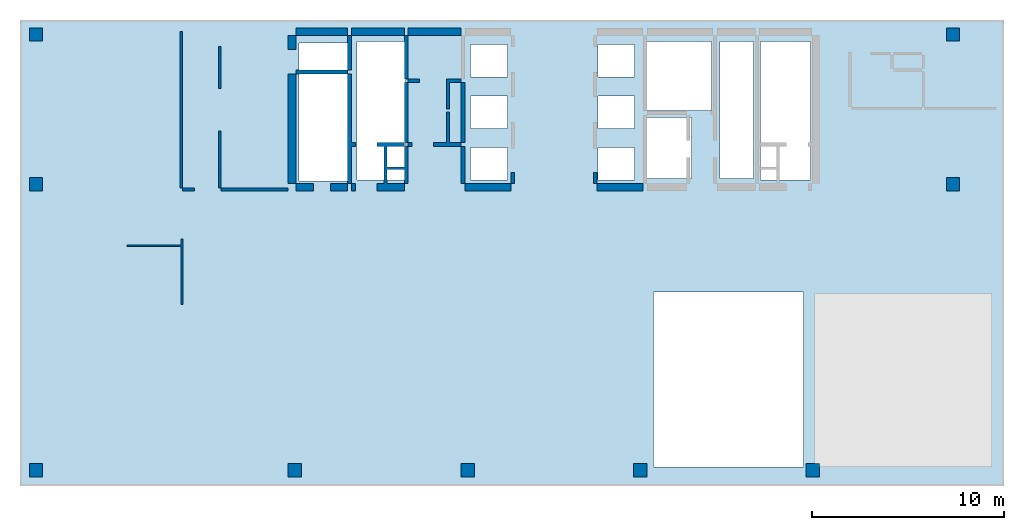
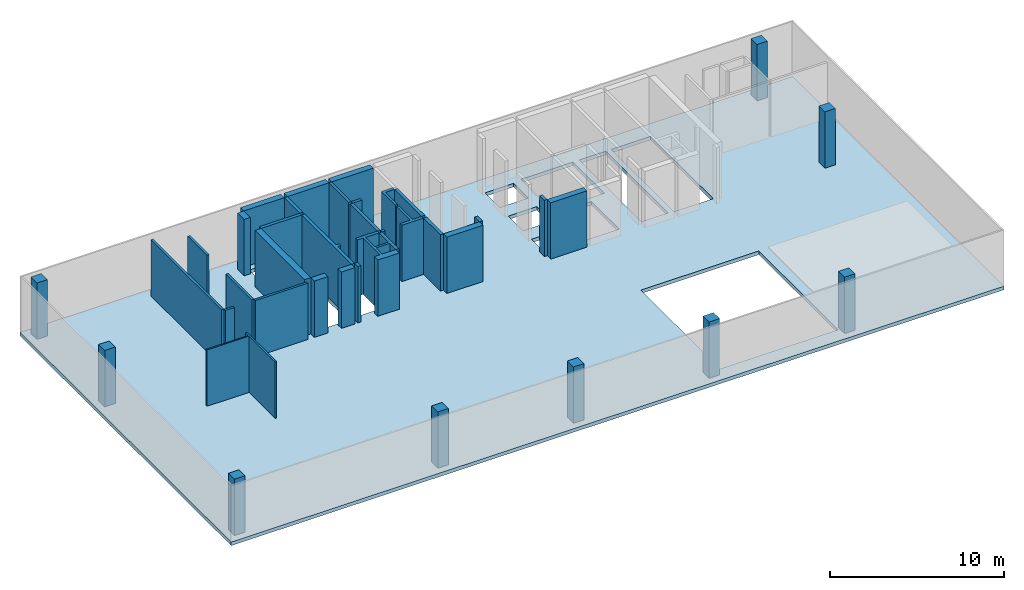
# One storey, part 1 of 4: 30 walls, 9 columns, 1 slab.
"""IFC4 building model written with IfcOpenShell, lengths in millimetres."""

from ifc_helpers import new_model, si_unit, frame, origin, place, context, project, spatial, triangles, element, save


model = new_model("IFC4")

# Units and contexts
model_context = context("Model", 3, precision=0.001, world=origin())
ifc_project = project(units=[si_unit("LENGTHUNIT", "METRE", prefix="MILLI"), si_unit("AREAUNIT", "SQUARE_METRE"), si_unit("VOLUMEUNIT", "CUBIC_METRE")], contexts=[model_context])

# Site, building, storey
site_placement = place(None, origin())
site = spatial("IfcSite", under=ifc_project, at=site_placement, Name="Site", CompositionType="ELEMENT")
building_placement = place(site_placement, origin())
building = spatial("IfcBuilding", under=site, at=building_placement, Name="INNOCEAN", CompositionType="ELEMENT")
storey_placement = place(building_placement, frame((0.0, 0.0, 80600.0)))
storey = spatial("IfcBuildingStorey", under=building, at=storey_placement, Name="F19", CompositionType="ELEMENT", Elevation=80600.0)

# Columns
column_1_placement = place(storey_placement, origin())
element("IfcColumn", 1, at=column_1_placement, inside=storey, Name="F19_Columns_F19_001", context=model_context, shape_type="Tessellation", body=[
    triangles([(40114.8, 2023.7, 0.0), (40114.8, 2023.7, 3950.0), (40114.8, 2722.3, 0.0), (40114.8, 2722.3, 3950.0), (40813.0, 2023.7, 3950.0), (40813.0, 2023.7, 0.0), (40813.0, 2722.3, 0.0), (40813.0, 2722.3, 3950.0)], [[1, 2, 3], [3, 2, 4], [5, 6, 7], [5, 7, 8], [6, 5, 1], [1, 5, 2], [8, 7, 3], [8, 3, 4], [3, 7, 1], [1, 7, 6], [8, 4, 2], [8, 2, 5]], closed=True),
])
column_2_placement = place(storey_placement, origin())
element("IfcColumn", 2, at=column_2_placement, inside=storey, Name="F19_Columns_F19_002", context=model_context, shape_type="Tessellation", body=[
    triangles([(47413.4, 24721.0, 0.0), (47413.4, 24721.0, 3950.0), (47413.4, 25419.5, 0.0), (47413.4, 25419.5, 3950.0), (48111.6, 24721.0, 3950.0), (48111.6, 24721.0, 0.0), (48111.6, 25419.5, 0.0), (48111.6, 25419.5, 3950.0)], [[1, 2, 3], [3, 2, 4], [5, 6, 7], [5, 7, 8], [6, 5, 1], [1, 5, 2], [8, 7, 3], [8, 3, 4], [1, 3, 6], [3, 7, 6], [4, 2, 5], [8, 4, 5]], closed=True),
])
column_3_placement = place(storey_placement, origin())
element("IfcColumn", 3, at=column_3_placement, inside=storey, Name="F19_Columns_F19_003", context=model_context, shape_type="Tessellation", body=[
    triangles([(47413.4, 16922.4, 0.0), (47413.4, 16922.4, 3950.0), (47413.4, 17620.9, 0.0), (47413.4, 17620.9, 3950.0), (48111.6, 16922.4, 3950.0), (48111.6, 16922.4, 0.0), (48111.6, 17620.9, 0.0), (48111.6, 17620.9, 3950.0)], [[1, 2, 3], [3, 2, 4], [5, 6, 7], [5, 7, 8], [6, 5, 1], [1, 5, 2], [8, 7, 3], [8, 3, 4], [1, 3, 6], [3, 7, 6], [4, 2, 5], [8, 4, 5]], closed=True),
])
column_4_placement = place(storey_placement, origin())
element("IfcColumn", 4, at=column_4_placement, inside=storey, Name="F19_Columns_F19_004", context=model_context, shape_type="Tessellation", body=[
    triangles([(13129.0, 2023.7, 0.0), (13129.0, 2023.7, 3950.0), (13129.0, 2722.3, 0.0), (13129.0, 2722.3, 3950.0), (13827.2, 2023.7, 3950.0), (13827.2, 2023.7, 0.0), (13827.2, 2722.3, 0.0), (13827.2, 2722.3, 3950.0)], [[1, 2, 3], [3, 2, 4], [5, 6, 7], [5, 7, 8], [6, 5, 1], [1, 5, 2], [8, 7, 3], [8, 3, 4], [3, 7, 1], [1, 7, 6], [8, 4, 2], [8, 2, 5]], closed=True),
])
column_5_placement = place(storey_placement, origin())
element("IfcColumn", 5, at=column_5_placement, inside=storey, Name="F19_Columns_F19_005", context=model_context, shape_type="Tessellation", body=[
    triangles([(-363.9, 2023.7, 0.0), (-363.9, 2023.7, 3950.0), (-363.9, 2722.3, 0.0), (-363.9, 2722.3, 3950.0), (334.3, 2023.7, 3950.0), (334.3, 2023.7, 0.0), (334.3, 2722.3, 0.0), (334.3, 2722.3, 3950.0)], [[1, 2, 3], [3, 2, 4], [5, 6, 7], [5, 7, 8], [6, 5, 1], [1, 5, 2], [8, 7, 3], [8, 3, 4], [3, 7, 1], [1, 7, 6], [8, 4, 2], [8, 2, 5]], closed=True),
])
column_6_placement = place(storey_placement, origin())
element("IfcColumn", 6, at=column_6_placement, inside=storey, Name="F19_Columns_F19_006", context=model_context, shape_type="Tessellation", body=[
    triangles([(-363.9, 24721.0, 0.0), (-363.9, 24721.0, 3950.0), (-363.9, 25419.5, 0.0), (-363.9, 25419.5, 3950.0), (334.3, 24721.0, 3950.0), (334.3, 24721.0, 0.0), (334.3, 25419.5, 0.0), (334.3, 25419.5, 3950.0)], [[1, 2, 3], [3, 2, 4], [5, 6, 7], [5, 7, 8], [6, 5, 1], [1, 5, 2], [8, 7, 3], [8, 3, 4], [3, 7, 1], [1, 7, 6], [8, 4, 2], [8, 2, 5]], closed=True),
])
column_7_placement = place(storey_placement, origin())
element("IfcColumn", 7, at=column_7_placement, inside=storey, Name="F19_Columns_F19_007", context=model_context, shape_type="Tessellation", body=[
    triangles([(31128.0, 2023.7, 0.0), (31128.0, 2023.7, 3950.0), (31128.0, 2722.3, 0.0), (31128.0, 2722.3, 3950.0), (31826.2, 2023.7, 3950.0), (31826.2, 2023.7, 0.0), (31826.2, 2722.3, 0.0), (31826.2, 2722.3, 3950.0)], [[1, 2, 3], [3, 2, 4], [5, 6, 7], [5, 7, 8], [6, 5, 1], [1, 5, 2], [8, 7, 3], [8, 3, 4], [3, 7, 1], [1, 7, 6], [8, 4, 2], [8, 2, 5]], closed=True),
])
column_8_placement = place(storey_placement, origin())
element("IfcColumn", 8, at=column_8_placement, inside=storey, Name="F19_Columns_F19_008", context=model_context, shape_type="Tessellation", body=[
    triangles([(22128.5, 2023.7, 0.0), (22128.5, 2023.7, 3950.0), (22128.5, 2722.3, 0.0), (22128.5, 2722.3, 3950.0), (22826.7, 2023.7, 3950.0), (22826.7, 2023.7, 0.0), (22826.7, 2722.3, 0.0), (22826.7, 2722.3, 3950.0)], [[1, 2, 3], [3, 2, 4], [5, 6, 7], [5, 7, 8], [6, 5, 1], [1, 5, 2], [8, 7, 3], [8, 3, 4], [3, 7, 1], [1, 7, 6], [8, 4, 2], [8, 2, 5]], closed=True),
])
column_9_placement = place(storey_placement, origin())
element("IfcColumn", 9, at=column_9_placement, inside=storey, Name="F19_Columns_F19_009", context=model_context, shape_type="Tessellation", body=[
    triangles([(-363.9, 16922.4, 0.0), (-363.9, 16922.4, 3950.0), (-363.9, 17620.9, 0.0), (-363.9, 17620.9, 3950.0), (334.3, 16922.4, 3950.0), (334.3, 16922.4, 0.0), (334.3, 17620.9, 0.0), (334.3, 17620.9, 3950.0)], [[1, 2, 3], [3, 2, 4], [5, 6, 7], [5, 7, 8], [6, 5, 1], [1, 5, 2], [8, 7, 3], [8, 3, 4], [3, 7, 1], [1, 7, 6], [8, 4, 2], [8, 2, 5]], closed=True),
])

# Slab
slab_placement = place(storey_placement, origin())
element("IfcSlab", 10, at=slab_placement, inside=storey, Name="F19_Slab_F19_001", context=model_context, shape_type="Tessellation", body=[
    triangles([(-846.215139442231, 25825.974025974, 0.0), (50420.3187250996, 25825.974025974, -250.0), (-846.215139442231, 25825.974025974, -250.0), (50420.3187250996, 25825.974025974, 0.0), (-846.215139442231, 1552.38095238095, 0.0), (-846.215139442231, 1552.38095238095, -250.0), (50420.3187250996, 1552.38095238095, 0.0), (50420.3187250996, 1552.38095238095, -250.0), (39983.6653386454, 11642.8571428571, 0.0), (32156.1752988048, 11642.8571428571, 0.0), (32156.1752988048, 11642.8571428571, -250.0), (39983.6653386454, 11642.8571428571, -250.0), (39983.6653386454, 2540.25974025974, 0.0), (39983.6653386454, 2540.25974025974, -250.0), (32156.1752988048, 2540.25974025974, 0.0), (32156.1752988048, 2540.25974025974, -250.0), (31168.9243027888, 19193.0735930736, 0.0), (29264.9402390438, 19193.0735930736, 0.0), (29264.9402390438, 19193.0735930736, -250.0), (31168.9243027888, 19193.0735930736, -250.0), (29264.9402390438, 17499.5670995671, 0.0), (29264.9402390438, 17499.5670995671, -250.0), (31168.9243027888, 17499.5670995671, 0.0), (31168.9243027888, 17499.5670995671, -250.0), (40336.2549800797, 24696.9696969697, -250.0), (37727.0916334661, 24696.9696969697, 0.0), (37727.0916334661, 24696.9696969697, -250.0), (40336.2549800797, 24696.9696969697, 0.0), (37727.0916334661, 17499.5670995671, 0.0), (37727.0916334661, 17499.5670995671, -250.0), (40336.2549800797, 17499.5670995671, 0.0), (40336.2549800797, 17499.5670995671, -250.0), (37374.5019920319, 24696.9696969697, 0.0), (35611.5537848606, 24696.9696969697, 0.0), (35611.5537848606, 24696.9696969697, -250.0), (37374.5019920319, 24696.9696969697, -250.0), (35611.5537848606, 17570.1298701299, 0.0), (35611.5537848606, 17570.1298701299, -250.0), (37374.5019920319, 17570.1298701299, 0.0), (37374.5019920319, 17570.1298701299, -250.0), (34130.6772908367, 20745.4545454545, -250.0), (31733.0677290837, 20745.4545454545, 0.0), (31733.0677290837, 20745.4545454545, -250.0), (34130.6772908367, 20745.4545454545, 0.0), (31733.0677290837, 17570.1298701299, 0.0), (31733.0677290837, 17570.1298701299, -250.0), (34130.6772908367, 17570.1298701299, 0.0), (34130.6772908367, 17570.1298701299, -250.0), (31168.9243027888, 21874.4588744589, 0.0), (29264.9402390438, 21874.4588744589, 0.0), (29264.9402390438, 21874.4588744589, -250.0), (31168.9243027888, 21874.4588744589, -250.0), (29264.9402390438, 20180.9523809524, 0.0), (29264.9402390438, 20180.9523809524, -250.0), (31168.9243027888, 20180.9523809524, 0.0), (31168.9243027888, 20180.9523809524, -250.0), (35188.4462151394, 24696.9696969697, 0.0), (31733.0677290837, 24696.9696969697, 0.0), (31733.0677290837, 24696.9696969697, -250.0), (35188.4462151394, 24696.9696969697, -250.0), (31733.0677290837, 21098.2683982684, 0.0), (31733.0677290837, 21098.2683982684, -250.0), (35188.4462151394, 21098.2683982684, 0.0), (35188.4462151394, 21098.2683982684, -250.0), (31168.9243027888, 24555.8441558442, 0.0), (29264.9402390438, 24555.8441558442, 0.0), (29264.9402390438, 24555.8441558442, -250.0), (31168.9243027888, 24555.8441558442, -250.0), (29264.9402390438, 22862.3376623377, 0.0), (29264.9402390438, 22862.3376623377, -250.0), (31168.9243027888, 22862.3376623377, 0.0), (31168.9243027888, 22862.3376623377, -250.0), (24540.2390438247, 19193.0735930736, -250.0), (22636.2549800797, 19193.0735930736, 0.0), (22636.2549800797, 19193.0735930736, -250.0), (24540.2390438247, 19193.0735930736, 0.0), (22636.2549800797, 17499.5670995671, 0.0), (22636.2549800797, 17499.5670995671, -250.0), (24540.2390438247, 17499.5670995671, 0.0), (24540.2390438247, 17499.5670995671, -250.0), (24540.2390438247, 21874.4588744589, -250.0), (22636.2549800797, 21874.4588744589, 0.0), (22636.2549800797, 21874.4588744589, -250.0), (24540.2390438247, 21874.4588744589, 0.0), (22636.2549800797, 20180.9523809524, 0.0), (22636.2549800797, 20180.9523809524, -250.0), (24540.2390438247, 20180.9523809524, 0.0), (24540.2390438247, 20180.9523809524, -250.0), (24540.2390438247, 24555.8441558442, -250.0), (22636.2549800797, 24555.8441558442, 0.0), (22636.2549800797, 24555.8441558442, -250.0), (24540.2390438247, 24555.8441558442, 0.0), (22636.2549800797, 22862.3376623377, 0.0), (22636.2549800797, 22862.3376623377, -250.0), (24540.2390438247, 22862.3376623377, 0.0), (24540.2390438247, 22862.3376623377, -250.0), (19251.3944223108, 24696.9696969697, 0.0), (16712.7490039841, 24696.9696969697, 0.0), (16712.7490039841, 24696.9696969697, -250.0), (19251.3944223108, 24696.9696969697, -250.0), (16712.7490039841, 17499.5670995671, 0.0), (16712.7490039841, 17499.5670995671, -250.0), (19251.3944223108, 17499.5670995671, 0.0), (19251.3944223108, 17499.5670995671, -250.0), (16219.1235059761, 24626.4069264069, 0.0), (13680.4780876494, 24626.4069264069, 0.0), (13680.4780876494, 24626.4069264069, -250.0), (16219.1235059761, 24626.4069264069, -250.0), (13680.4780876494, 17429.0043290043, 0.0), (13680.4780876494, 17429.0043290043, -250.0), (16219.1235059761, 17429.0043290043, 0.0), (16219.1235059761, 17429.0043290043, -250.0)], [[1, 2, 3], [1, 4, 2], [5, 1, 6], [6, 1, 3], [4, 7, 2], [2, 7, 8], [7, 6, 8], [7, 5, 6], [9, 10, 11], [9, 11, 12], [13, 9, 12], [13, 12, 14], [15, 13, 14], [15, 14, 16], [10, 15, 16], [10, 16, 11], [17, 18, 19], [17, 19, 20], [18, 21, 22], [18, 22, 19], [23, 17, 20], [23, 20, 24], [21, 23, 24], [21, 24, 22], [25, 26, 27], [28, 26, 25], [26, 29, 30], [26, 30, 27], [31, 28, 25], [31, 25, 32], [30, 31, 32], [29, 31, 30], [33, 34, 35], [33, 35, 36], [34, 37, 38], [34, 38, 35], [39, 33, 36], [39, 36, 40], [37, 39, 40], [37, 40, 38], [41, 42, 43], [44, 42, 41], [42, 45, 46], [42, 46, 43], [47, 44, 41], [47, 41, 48], [46, 47, 48], [45, 47, 46], [49, 50, 51], [49, 51, 52], [50, 53, 54], [50, 54, 51], [55, 49, 52], [55, 52, 56], [53, 55, 56], [53, 56, 54], [57, 58, 59], [57, 59, 60], [58, 61, 62], [58, 62, 59], [63, 57, 60], [63, 60, 64], [61, 63, 64], [61, 64, 62], [65, 66, 67], [65, 67, 68], [66, 69, 70], [66, 70, 67], [71, 65, 68], [71, 68, 72], [69, 71, 72], [69, 72, 70], [73, 74, 75], [76, 74, 73], [74, 77, 78], [74, 78, 75], [79, 76, 73], [79, 73, 80], [78, 79, 80], [77, 79, 78], [81, 82, 83], [84, 82, 81], [82, 85, 86], [82, 86, 83], [87, 84, 81], [87, 81, 88], [86, 87, 88], [85, 87, 86], [89, 90, 91], [92, 90, 89], [90, 93, 94], [90, 94, 91], [95, 92, 89], [95, 89, 96], [94, 95, 96], [93, 95, 94], [97, 98, 99], [97, 99, 100], [98, 101, 102], [98, 102, 99], [103, 97, 100], [103, 100, 104], [101, 103, 104], [101, 104, 102], [105, 106, 107], [105, 107, 108], [106, 109, 110], [106, 110, 107], [111, 105, 108], [111, 108, 112], [109, 111, 112], [109, 112, 110], [13, 15, 7], [7, 9, 13], [7, 4, 9], [4, 31, 9], [31, 29, 9], [29, 39, 9], [9, 37, 10], [39, 37, 9], [37, 47, 10], [4, 28, 31], [47, 45, 10], [45, 23, 10], [37, 44, 47], [63, 44, 37], [45, 17, 23], [23, 21, 10], [17, 42, 55], [42, 61, 55], [44, 61, 42], [34, 57, 63], [55, 18, 17], [61, 49, 55], [55, 53, 18], [61, 71, 49], [21, 79, 10], [58, 65, 71], [71, 69, 49], [49, 69, 50], [21, 76, 79], [18, 76, 21], [53, 76, 18], [10, 77, 15], [79, 77, 10], [58, 66, 65], [50, 87, 53], [53, 87, 76], [50, 84, 87], [76, 85, 74], [87, 85, 76], [77, 103, 15], [85, 103, 74], [74, 103, 77], [69, 95, 50], [50, 95, 84], [85, 82, 103], [95, 82, 84], [66, 92, 69], [69, 92, 95], [95, 93, 82], [103, 111, 15], [101, 111, 103], [111, 5, 15], [111, 109, 5], [90, 97, 93], [93, 97, 82], [82, 97, 103], [101, 105, 111], [98, 105, 101], [98, 106, 105], [106, 1, 109], [109, 1, 5], [4, 1, 28], [28, 1, 26], [26, 1, 33], [33, 1, 34], [34, 1, 57], [57, 1, 58], [58, 1, 66], [66, 1, 92], [92, 1, 90], [90, 1, 97], [97, 1, 98], [98, 1, 106], [5, 7, 15], [37, 34, 63], [33, 39, 26], [26, 39, 29], [45, 42, 17], [61, 58, 71], [63, 61, 44], [16, 14, 8], [12, 8, 14], [2, 8, 12], [32, 2, 12], [30, 32, 12], [40, 30, 12], [38, 12, 11], [38, 40, 12], [48, 38, 11], [25, 2, 32], [46, 48, 11], [24, 46, 11], [41, 38, 48], [41, 64, 38], [20, 46, 24], [22, 24, 11], [43, 20, 56], [62, 43, 56], [62, 41, 43], [60, 35, 64], [19, 56, 20], [52, 62, 56], [54, 56, 19], [72, 62, 52], [80, 22, 11], [68, 59, 72], [70, 72, 52], [70, 52, 51], [73, 22, 80], [73, 19, 22], [73, 54, 19], [78, 11, 16], [78, 80, 11], [67, 59, 68], [88, 51, 54], [88, 54, 73], [81, 51, 88], [86, 73, 75], [86, 88, 73], [104, 78, 16], [104, 86, 75], [104, 75, 78], [96, 70, 51], [96, 51, 81], [83, 86, 104], [83, 96, 81], [89, 67, 70], [89, 70, 96], [94, 96, 83], [112, 104, 16], [112, 102, 104], [6, 112, 16], [110, 112, 6], [100, 91, 94], [100, 94, 83], [100, 83, 104], [108, 102, 112], [108, 99, 102], [107, 99, 108], [3, 107, 110], [3, 110, 6], [3, 2, 25], [3, 25, 27], [3, 27, 36], [3, 36, 35], [3, 35, 60], [3, 60, 59], [3, 59, 67], [3, 67, 89], [3, 89, 91], [3, 91, 100], [3, 100, 99], [3, 99, 107], [8, 6, 16], [35, 38, 64], [40, 36, 27], [40, 27, 30], [43, 46, 20], [59, 62, 72], [62, 64, 41]], closed=True),
])

# Walls
wall_1_placement = place(storey_placement, origin())
element("IfcWall", 11, at=wall_1_placement, inside=storey, Name="F19_Walls_F19_001", context=model_context, shape_type="Tessellation", body=[
    triangles([(7530.0, 11015.0, 0.0), (7635.0, 11015.0, 0.0), (7635.0, 11015.0, 3950.0), (7530.0, 11015.0, 3950.0), (7530.0, 13570.0, 0.0), (7530.0, 13570.0, 3950.0), (7530.0, 14025.0, 0.0), (7530.0, 14025.0, 3950.0), (7530.0, 14026.5, 0.0), (7530.0, 14026.5, 3950.0), (4738.8, 14026.5, 3950.0), (4738.8, 14026.5, 0.0), (4738.8, 14115.4, 0.0), (4738.8, 14115.4, 3950.0), (7530.0, 14115.4, 3950.0), (7530.0, 14115.4, 0.0), (7530.0, 14420.0, 0.0), (7530.0, 14420.0, 3950.0), (7531.3, 14420.0, 0.0), (7531.3, 14420.0, 3950.0), (7531.3, 14420.2, 0.0), (7531.3, 14420.2, 3950.0), (7632.9, 14420.2, 0.0), (7632.9, 14420.2, 3950.0), (7632.9, 14420.0, 0.0), (7632.9, 14420.0, 3950.0), (7635.0, 14420.0, 0.0), (7635.0, 14420.0, 3950.0)], [[1, 2, 3], [1, 3, 4], [5, 1, 4], [5, 4, 6], [7, 5, 6], [7, 6, 8], [9, 7, 8], [9, 8, 10], [9, 10, 11], [12, 9, 11], [13, 12, 11], [13, 11, 14], [13, 14, 15], [16, 13, 15], [17, 16, 15], [17, 15, 18], [19, 17, 18], [19, 18, 20], [21, 19, 20], [21, 20, 22], [23, 21, 22], [23, 22, 24], [25, 23, 24], [25, 24, 26], [27, 25, 26], [27, 26, 28], [27, 28, 3], [2, 27, 3], [5, 2, 1], [27, 5, 7], [27, 7, 9], [27, 9, 16], [25, 27, 16], [19, 23, 25], [19, 25, 16], [21, 23, 19], [17, 19, 16], [13, 9, 12], [13, 16, 9], [27, 2, 5], [3, 6, 4], [6, 28, 8], [8, 28, 10], [10, 28, 15], [28, 26, 15], [24, 20, 26], [26, 20, 15], [24, 22, 20], [20, 18, 15], [10, 14, 11], [15, 14, 10], [3, 28, 6]], closed=True),
])
wall_2_placement = place(storey_placement, origin())
element("IfcWall", 12, at=wall_2_placement, inside=storey, Name="F19_Walls_F19_002", context=model_context, shape_type="Tessellation", body=[
    triangles([(8242.1, 16922.4, 0.0), (8242.1, 17074.8, 0.0), (8242.1, 17074.8, 3950.0), (8242.1, 16922.4, 3950.0), (7632.9, 16922.4, 0.0), (7632.9, 16922.4, 3950.0), (7632.9, 17074.8, 0.0), (7632.9, 17074.8, 3950.0)], [[1, 2, 3], [1, 3, 4], [5, 1, 4], [5, 4, 6], [7, 5, 6], [7, 6, 8], [2, 7, 8], [2, 8, 3], [7, 2, 1], [7, 1, 5], [3, 8, 4], [4, 8, 6]], closed=True),
])
wall_3_placement = place(storey_placement, origin())
element("IfcWall", 13, at=wall_3_placement, inside=storey, Name="F19_Walls_F19_003", context=model_context, shape_type="Tessellation", body=[
    triangles([(13129.0, 16922.4, 0.0), (13129.0, 17074.8, 0.0), (13129.0, 17074.8, 3950.0), (13129.0, 16922.4, 3950.0), (9638.4, 16922.4, 3950.0), (9638.4, 16922.4, 0.0), (9638.4, 17074.8, 0.0), (9638.4, 17074.8, 3950.0)], [[1, 2, 3], [1, 3, 4], [1, 4, 5], [6, 1, 5], [7, 6, 5], [7, 5, 8], [7, 8, 3], [2, 7, 3], [7, 2, 1], [7, 1, 6], [3, 8, 4], [4, 8, 5]], closed=True),
])
wall_4_placement = place(storey_placement, origin())
element("IfcWall", 14, at=wall_4_placement, inside=storey, Name="F19_Walls_F19_004", context=model_context, shape_type="Tessellation", body=[
    triangles([(14436.4, 17316.1, 0.0), (13535.2, 17316.1, 0.0), (13535.2, 17316.1, 3950.0), (14436.4, 17316.1, 3950.0), (14436.4, 16922.4, 3950.0), (14436.4, 16922.4, 0.0), (13535.2, 16922.4, 0.0), (13535.2, 16922.4, 3950.0)], [[1, 2, 3], [1, 3, 4], [1, 4, 5], [6, 1, 5], [7, 6, 5], [7, 5, 8], [7, 8, 3], [2, 7, 3], [2, 1, 6], [2, 6, 7], [4, 3, 5], [5, 3, 8]], closed=True),
])
wall_5_placement = place(storey_placement, origin())
element("IfcWall", 15, at=wall_5_placement, inside=storey, Name="F19_Walls_F19_005", context=model_context, shape_type="Tessellation", body=[
    triangles([(16226.2, 17316.1, 0.0), (16226.2, 17316.1, 3950.0), (16226.2, 16922.4, 3950.0), (16226.2, 16922.4, 0.0), (15337.6, 16922.4, 0.0), (15337.6, 16922.4, 3950.0), (15337.6, 17316.1, 3950.0), (15337.6, 17316.1, 0.0)], [[1, 2, 3], [4, 1, 3], [5, 4, 3], [5, 3, 6], [5, 6, 7], [8, 5, 7], [1, 8, 7], [1, 7, 2], [8, 1, 4], [8, 4, 5], [2, 7, 3], [3, 7, 6]], closed=True),
])
wall_6_placement = place(storey_placement, origin())
element("IfcWall", 16, at=wall_6_placement, inside=storey, Name="F19_Walls_F19_006", context=model_context, shape_type="Tessellation", body=[
    triangles([(16632.4, 17316.1, 0.0), (16632.4, 17316.1, 3950.0), (16632.4, 16922.4, 3950.0), (16632.4, 16922.4, 0.0), (16429.3, 16922.4, 3950.0), (16429.3, 16922.4, 0.0), (16429.3, 17316.1, 3950.0), (16429.3, 17316.1, 0.0)], [[1, 2, 3], [4, 1, 3], [4, 3, 5], [6, 4, 5], [6, 5, 7], [8, 6, 7], [8, 7, 2], [1, 8, 2], [8, 1, 4], [8, 4, 6], [2, 7, 3], [3, 7, 5]], closed=True),
])
wall_7_placement = place(storey_placement, origin())
element("IfcWall", 17, at=wall_7_placement, inside=storey, Name="F19_Walls_F19_007", context=model_context, shape_type="Tessellation", body=[
    triangles([(18130.0, 19245.0, 0.0), (18130.0, 17316.1, 0.0), (18130.0, 17316.1, 3950.0), (18130.0, 19245.0, 3950.0), (17749.4, 17316.1, 0.0), (17749.4, 17316.1, 3950.0), (17749.4, 16922.4, 0.0), (17749.4, 16922.4, 3950.0), (19183.7, 16922.4, 0.0), (19183.7, 16922.4, 3950.0), (19183.7, 17316.1, 0.0), (19183.7, 17316.1, 3950.0), (19374.1, 17316.1, 0.0), (19374.1, 17316.1, 3950.0), (19374.1, 19246.7, 0.0), (19374.1, 19246.7, 3950.0), (19183.7, 19246.7, 0.0), (19183.7, 19246.7, 3950.0), (19183.7, 19449.9, 0.0), (19183.7, 19449.9, 3950.0), (17749.4, 19449.9, 0.0), (17749.4, 19449.9, 3950.0), (17749.4, 19246.7, 0.0), (17749.4, 19246.7, 3950.0), (18130.2, 19246.7, 0.0), (18130.2, 19246.7, 3950.0), (18130.2, 19245.0, 0.0), (18130.2, 19245.0, 3950.0), (18282.5, 17316.1, 0.0), (18282.5, 17316.1, 3950.0), (18282.5, 18025.0, 0.0), (18282.5, 18025.0, 3950.0), (19183.7, 18025.0, 0.0), (19183.7, 18025.0, 3950.0), (19183.7, 18167.1, 0.0), (19183.7, 18167.1, 3950.0), (18282.5, 18167.1, 0.0), (18282.5, 18167.1, 3950.0), (18282.5, 19246.7, 0.0), (18282.5, 19246.7, 3950.0)], [[1, 2, 3], [1, 3, 4], [2, 5, 6], [2, 6, 3], [7, 8, 6], [5, 7, 6], [7, 9, 10], [7, 10, 8], [11, 12, 10], [9, 11, 10], [11, 13, 14], [11, 14, 12], [13, 15, 16], [13, 16, 14], [15, 17, 18], [15, 18, 16], [17, 19, 20], [17, 20, 18], [19, 21, 22], [19, 22, 20], [21, 23, 24], [21, 24, 22], [25, 26, 24], [23, 25, 24], [25, 27, 28], [25, 28, 26], [27, 1, 4], [27, 4, 28], [11, 29, 30], [11, 30, 12], [31, 32, 30], [29, 31, 30], [31, 33, 34], [31, 34, 32], [11, 12, 34], [33, 11, 34], [17, 35, 36], [17, 36, 18], [35, 37, 38], [35, 38, 36], [37, 39, 40], [37, 40, 38], [39, 17, 18], [39, 18, 40], [33, 13, 11], [35, 13, 33], [29, 11, 9], [7, 29, 9], [2, 29, 7], [5, 2, 7], [31, 29, 2], [15, 13, 35], [37, 33, 31], [37, 35, 33], [17, 15, 35], [39, 19, 17], [27, 39, 37], [1, 27, 37], [25, 39, 27], [21, 25, 23], [21, 19, 39], [21, 39, 25], [2, 1, 37], [2, 37, 31], [14, 34, 12], [14, 36, 34], [12, 30, 10], [30, 8, 10], [30, 3, 8], [3, 6, 8], [30, 32, 3], [14, 16, 36], [34, 38, 32], [36, 38, 34], [16, 18, 36], [20, 40, 18], [40, 28, 38], [28, 4, 38], [40, 26, 28], [26, 22, 24], [20, 22, 40], [40, 22, 26], [4, 3, 38], [38, 3, 32]], closed=True),
])
wall_8_placement = place(storey_placement, origin())
element("IfcWall", 18, at=wall_8_placement, inside=storey, Name="F19_Walls_F19_008", context=model_context, shape_type="Tessellation", body=[
    triangles([(16226.2, 23019.0, 0.0), (16226.2, 19449.9, 0.0), (16226.2, 19449.9, 3950.0), (16226.2, 23019.0, 3950.0), (16429.3, 23019.0, 0.0), (16429.3, 23019.0, 3950.0), (16429.3, 19449.9, 0.0), (16429.3, 19449.9, 3950.0), (16632.4, 19449.9, 3950.0), (16632.4, 19449.9, 0.0), (16632.4, 19246.7, 0.0), (16632.4, 19246.7, 3950.0), (16429.3, 19246.7, 3950.0), (16429.3, 19246.7, 0.0), (16429.3, 17316.1, 0.0), (16429.3, 17316.1, 3950.0), (16226.2, 17316.1, 0.0), (16226.2, 17316.1, 3950.0), (16226.2, 19246.7, 0.0), (16226.2, 19246.7, 3950.0)], [[1, 2, 3], [1, 3, 4], [5, 1, 4], [5, 4, 6], [7, 5, 6], [7, 6, 8], [7, 8, 9], [10, 7, 9], [11, 10, 9], [11, 9, 12], [11, 12, 13], [14, 11, 13], [15, 14, 13], [15, 13, 16], [17, 15, 16], [17, 16, 18], [19, 17, 18], [19, 18, 20], [2, 19, 20], [2, 20, 3], [19, 14, 15], [19, 15, 17], [7, 10, 11], [7, 11, 14], [2, 7, 14], [2, 14, 19], [5, 7, 2], [1, 5, 2], [13, 20, 16], [16, 20, 18], [9, 8, 12], [12, 8, 13], [8, 3, 13], [13, 3, 20], [8, 6, 3], [6, 4, 3]], closed=True),
])
wall_9_placement = place(storey_placement, origin())
element("IfcWall", 19, at=wall_9_placement, inside=storey, Name="F19_Walls_F19_009", context=model_context, shape_type="Tessellation", body=[
    triangles([(9638.4, 20046.9, 0.0), (9486.1, 20046.9, 0.0), (9486.1, 20046.9, 3950.0), (9638.4, 20046.9, 3950.0), (9638.4, 17074.8, 0.0), (9638.4, 17074.8, 3950.0), (9486.1, 17074.8, 0.0), (9486.1, 17074.8, 3950.0)], [[1, 2, 3], [1, 3, 4], [5, 1, 4], [5, 4, 6], [7, 5, 6], [7, 6, 8], [2, 7, 8], [2, 8, 3], [2, 1, 5], [2, 5, 7], [4, 3, 6], [6, 3, 8]], closed=True),
])
wall_10_placement = place(storey_placement, origin())
element("IfcWall", 20, at=wall_10_placement, inside=storey, Name="F19_Walls_F19_010", context=model_context, shape_type="Tessellation", body=[
    triangles([(13535.2, 17316.1, 0.0), (13535.2, 23019.0, 0.0), (13535.2, 23019.0, 3950.0), (13535.2, 17316.1, 3950.0), (13129.0, 17316.1, 3950.0), (13129.0, 17316.1, 0.0), (13129.0, 23019.0, 0.0), (13129.0, 23019.0, 3950.0)], [[1, 2, 3], [1, 3, 4], [1, 4, 5], [6, 1, 5], [7, 6, 5], [7, 5, 8], [7, 8, 3], [2, 7, 3], [7, 2, 1], [7, 1, 6], [3, 8, 4], [4, 8, 5]], closed=True),
])
wall_11_placement = place(storey_placement, origin())
element("IfcWall", 21, at=wall_11_placement, inside=storey, Name="F19_Walls_F19_011", context=model_context, shape_type="Tessellation", body=[
    triangles([(7632.9, 17074.8, 0.0), (7632.9, 25216.3, 0.0), (7632.9, 25216.3, 3950.0), (7632.9, 17074.8, 3950.0), (7480.5, 17074.8, 0.0), (7480.5, 17074.8, 3950.0), (7480.5, 25216.3, 0.0), (7480.5, 25216.3, 3950.0)], [[1, 2, 3], [1, 3, 4], [5, 1, 4], [5, 4, 6], [7, 5, 6], [7, 6, 8], [2, 7, 8], [2, 8, 3], [7, 2, 1], [7, 1, 5], [3, 8, 4], [4, 8, 6]], closed=True),
])
wall_12_placement = place(storey_placement, origin())
element("IfcWall", 22, at=wall_12_placement, inside=storey, Name="F19_Walls_F19_012", context=model_context, shape_type="Tessellation", body=[
    triangles([(16226.2, 23019.0, 0.0), (16226.2, 23222.2, 0.0), (16226.2, 23222.2, 3950.0), (16226.2, 23019.0, 3950.0), (13535.2, 23019.0, 0.0), (13535.2, 23019.0, 3950.0), (13535.2, 23222.2, 0.0), (13535.2, 23222.2, 3950.0)], [[1, 2, 3], [1, 3, 4], [5, 1, 4], [5, 4, 6], [7, 5, 6], [7, 6, 8], [2, 7, 8], [2, 8, 3], [7, 2, 1], [7, 1, 5], [3, 8, 4], [4, 8, 6]], closed=True),
])
wall_13_placement = place(storey_placement, origin())
element("IfcWall", 23, at=wall_13_placement, inside=storey, Name="F19_Walls_F19_013", context=model_context, shape_type="Tessellation", body=[
    triangles([(9638.4, 22244.2, 0.0), (9638.4, 24454.2, 0.0), (9638.4, 24454.2, 3950.0), (9638.4, 22244.2, 3950.0), (9486.1, 22244.2, 0.0), (9486.1, 22244.2, 3950.0), (9486.1, 24454.2, 0.0), (9486.1, 24454.2, 3950.0)], [[1, 2, 3], [1, 3, 4], [5, 1, 4], [5, 4, 6], [7, 5, 6], [7, 6, 8], [2, 7, 8], [2, 8, 3], [7, 2, 1], [7, 1, 5], [3, 8, 4], [4, 8, 6]], closed=True),
])
wall_14_placement = place(storey_placement, origin())
element("IfcWall", 24, at=wall_14_placement, inside=storey, Name="F19_Walls_F19_014", context=model_context, shape_type="Tessellation", body=[
    triangles([(16226.2, 23222.2, 0.0), (16429.3, 23222.2, 0.0), (16429.3, 23222.2, 3950.0), (16226.2, 23222.2, 3950.0), (16226.2, 25025.8, 0.0), (16226.2, 25025.8, 3950.0), (16429.3, 25025.8, 0.0), (16429.3, 25025.8, 3950.0)], [[1, 2, 3], [1, 3, 4], [5, 1, 4], [5, 4, 6], [7, 5, 6], [7, 6, 8], [2, 7, 8], [2, 8, 3], [5, 2, 1], [5, 7, 2], [3, 6, 4], [8, 6, 3]], closed=True),
])
wall_15_placement = place(storey_placement, origin())
element("IfcWall", 25, at=wall_15_placement, inside=storey, Name="F19_Walls_F19_015", context=model_context, shape_type="Tessellation", body=[
    triangles([(13129.0, 25025.8, 0.0), (13129.0, 25025.8, 3950.0), (13535.2, 25025.8, 3950.0), (13535.2, 25025.8, 0.0), (13535.2, 24276.4, 0.0), (13535.2, 24276.4, 3950.0), (13129.0, 24276.4, 3950.0), (13129.0, 24276.4, 0.0)], [[1, 2, 3], [4, 1, 3], [5, 4, 3], [5, 3, 6], [5, 6, 7], [8, 5, 7], [1, 8, 7], [1, 7, 2], [4, 5, 8], [1, 4, 8], [6, 3, 7], [3, 2, 7]], closed=True),
])
wall_16_placement = place(storey_placement, origin())
element("IfcWall", 26, at=wall_16_placement, inside=storey, Name="F19_Walls_F19_016", context=model_context, shape_type="Tessellation", body=[
    triangles([(13535.2, 25025.8, 0.0), (16226.2, 25025.8, 0.0), (16226.2, 25025.8, 3950.0), (13535.2, 25025.8, 3950.0), (13535.2, 25419.5, 0.0), (13535.2, 25419.5, 3950.0), (16226.2, 25419.5, 0.0), (16226.2, 25419.5, 3950.0)], [[1, 2, 3], [1, 3, 4], [5, 1, 4], [5, 4, 6], [7, 5, 6], [7, 6, 8], [2, 7, 8], [2, 8, 3], [1, 7, 2], [5, 7, 1], [8, 4, 3], [8, 6, 4]], closed=True),
])
wall_17_placement = place(storey_placement, origin())
element("IfcWall", 27, at=wall_17_placement, inside=storey, Name="F19_Walls_F19_017", context=model_context, shape_type="Tessellation", body=[
    triangles([(19183.7, 25419.5, 0.0), (16429.3, 25419.5, 0.0), (16429.3, 25419.5, 3950.0), (19183.7, 25419.5, 3950.0), (19183.7, 25025.8, 0.0), (19183.7, 25025.8, 3950.0), (16429.3, 25025.8, 0.0), (16429.3, 25025.8, 3950.0)], [[1, 2, 3], [1, 3, 4], [5, 1, 4], [5, 4, 6], [7, 5, 6], [7, 6, 8], [2, 7, 8], [2, 8, 3], [2, 1, 5], [2, 5, 7], [4, 3, 6], [6, 3, 8]], closed=True),
])
wall_18_placement = place(storey_placement, origin())
element("IfcWall", 28, at=wall_18_placement, inside=storey, Name="F19_Walls_F19_018", context=model_context, shape_type="Tessellation", body=[
    triangles([(24730.6, 17316.1, 0.0), (24730.6, 17316.1, 3950.0), (24730.6, 16922.4, 3950.0), (24730.6, 16922.4, 0.0), (22331.6, 16922.4, 0.0), (22331.6, 16922.4, 3950.0), (22331.6, 17316.1, 3950.0), (22331.6, 17316.1, 0.0)], [[1, 2, 3], [4, 1, 3], [5, 4, 3], [5, 3, 6], [5, 6, 7], [8, 5, 7], [1, 8, 7], [1, 7, 2], [8, 1, 4], [8, 4, 5], [2, 7, 3], [3, 7, 6]], closed=True),
])
wall_19_placement = place(storey_placement, origin())
element("IfcWall", 29, at=wall_19_placement, inside=storey, Name="F19_Walls_F19_019", context=model_context, shape_type="Tessellation", body=[
    triangles([(24921.0, 17875.0, 0.0), (24730.6, 17875.0, 0.0), (24730.6, 17875.0, 3950.0), (24921.0, 17875.0, 3950.0), (24921.0, 17316.1, 3950.0), (24921.0, 17316.1, 0.0), (24730.6, 17316.1, 0.0), (24730.6, 17316.1, 3950.0)], [[1, 2, 3], [1, 3, 4], [1, 4, 5], [6, 1, 5], [7, 6, 5], [7, 5, 8], [7, 8, 3], [2, 7, 3], [2, 1, 6], [2, 6, 7], [4, 3, 5], [5, 3, 8]], closed=True),
])
wall_20_placement = place(storey_placement, origin())
element("IfcWall", 30, at=wall_20_placement, inside=storey, Name="F19_Walls_F19_020", context=model_context, shape_type="Tessellation", body=[
    triangles([(22331.6, 17316.1, 0.0), (22331.6, 19246.7, 0.0), (22331.6, 19246.7, 3950.0), (22331.6, 17316.1, 3950.0), (22128.5, 17316.1, 0.0), (22128.5, 17316.1, 3950.0), (22128.5, 19246.7, 0.0), (22128.5, 19246.7, 3950.0)], [[1, 2, 3], [1, 3, 4], [5, 1, 4], [5, 4, 6], [7, 5, 6], [7, 6, 8], [2, 7, 8], [2, 8, 3], [7, 2, 1], [7, 1, 5], [3, 8, 4], [4, 8, 6]], closed=True),
])
wall_21_placement = place(storey_placement, origin())
element("IfcWall", 31, at=wall_21_placement, inside=storey, Name="F19_Walls_F19_021", context=model_context, shape_type="Tessellation", body=[
    triangles([(19577.2, 19246.7, 0.0), (19577.2, 19449.9, 0.0), (19577.2, 19449.9, 3950.0), (19577.2, 19246.7, 3950.0), (19374.1, 19246.7, 3950.0), (19374.1, 19246.7, 0.0), (19374.1, 19449.9, 0.0), (19374.1, 19449.9, 3950.0)], [[1, 2, 3], [1, 3, 4], [1, 4, 5], [6, 1, 5], [7, 6, 5], [7, 5, 8], [7, 8, 3], [2, 7, 3], [7, 2, 1], [7, 1, 6], [3, 8, 4], [4, 8, 5]], closed=True),
])
wall_22_placement = place(storey_placement, origin())
element("IfcWall", 32, at=wall_22_placement, inside=storey, Name="F19_Walls_F19_022", context=model_context, shape_type="Tessellation", body=[
    triangles([(21366.9, 21024.9, 0.0), (21366.9, 19449.9, 0.0), (21366.9, 19449.9, 3950.0), (21366.9, 21024.9, 3950.0), (21519.3, 21024.9, 0.0), (21519.3, 21024.9, 3950.0), (21519.3, 19449.9, 0.0), (21519.3, 19449.9, 3950.0), (22128.5, 19449.9, 0.0), (22128.5, 19449.9, 3950.0), (22128.5, 19246.7, 0.0), (22128.5, 19246.7, 3950.0), (20694.2, 19246.7, 0.0), (20694.2, 19246.7, 3950.0), (20694.2, 19449.9, 0.0), (20694.2, 19449.9, 3950.0)], [[1, 2, 3], [1, 3, 4], [5, 1, 4], [5, 4, 6], [7, 5, 6], [7, 6, 8], [9, 7, 8], [9, 8, 10], [11, 9, 10], [11, 10, 12], [13, 11, 12], [13, 12, 14], [15, 13, 14], [15, 14, 16], [2, 15, 16], [2, 16, 3], [7, 9, 11], [2, 7, 11], [13, 2, 11], [15, 2, 13], [1, 5, 7], [1, 7, 2], [10, 8, 12], [8, 3, 12], [3, 14, 12], [3, 16, 14], [6, 4, 8], [8, 4, 3]], closed=True),
])
wall_23_placement = place(storey_placement, origin())
element("IfcWall", 33, at=wall_23_placement, inside=storey, Name="F19_Walls_F19_024", context=model_context, shape_type="Tessellation", body=[
    triangles([(19374.1, 19449.9, 0.0), (19374.1, 22574.4, 0.0), (19374.1, 22574.4, 3950.0), (19374.1, 19449.9, 3950.0), (19183.7, 19449.9, 0.0), (19183.7, 19449.9, 3950.0), (19183.7, 22574.4, 0.0), (19183.7, 22574.4, 3950.0)], [[1, 2, 3], [1, 3, 4], [5, 1, 4], [5, 4, 6], [7, 5, 6], [7, 6, 8], [2, 7, 8], [2, 8, 3], [2, 1, 5], [7, 2, 5], [4, 3, 6], [3, 8, 6]], closed=True),
])
wall_24_placement = place(storey_placement, origin())
element("IfcWall", 34, at=wall_24_placement, inside=storey, Name="F19_Walls_F19_025", context=model_context, shape_type="Tessellation", body=[
    triangles([(22331.6, 22574.4, 0.0), (22128.5, 22574.4, 0.0), (22128.5, 22574.4, 3950.0), (22331.6, 22574.4, 3950.0), (22331.6, 19449.9, 0.0), (22331.6, 19449.9, 3950.0), (22128.5, 19449.9, 0.0), (22128.5, 19449.9, 3950.0)], [[1, 2, 3], [1, 3, 4], [5, 1, 4], [5, 4, 6], [7, 5, 6], [7, 6, 8], [2, 7, 8], [2, 8, 3], [1, 5, 7], [2, 1, 7], [6, 4, 8], [4, 3, 8]], closed=True),
])
wall_25_placement = place(storey_placement, origin())
element("IfcWall", 35, at=wall_25_placement, inside=storey, Name="F19_Walls_F19_026", context=model_context, shape_type="Tessellation", body=[
    triangles([(22128.5, 22765.0, 0.0), (21366.9, 22765.0, 0.0), (21366.9, 22765.0, 3950.0), (22128.5, 22765.0, 3950.0), (22128.5, 22574.4, 3950.0), (22128.5, 22574.4, 0.0), (21519.3, 22574.4, 0.0), (21519.3, 22574.4, 3950.0), (21519.3, 21177.3, 0.0), (21519.3, 21177.3, 3950.0), (21366.9, 21177.3, 0.0), (21366.9, 21177.3, 3950.0), (21366.9, 22574.4, 0.0), (21366.9, 22574.4, 3950.0)], [[1, 2, 3], [1, 3, 4], [1, 4, 5], [6, 1, 5], [7, 6, 5], [7, 5, 8], [9, 7, 8], [9, 8, 10], [11, 9, 10], [11, 10, 12], [13, 11, 12], [13, 12, 14], [13, 14, 3], [2, 13, 3], [7, 1, 6], [13, 7, 9], [13, 9, 11], [2, 1, 7], [2, 7, 13], [4, 8, 5], [8, 14, 10], [10, 14, 12], [4, 3, 8], [8, 3, 14]], closed=True),
])
wall_26_placement = place(storey_placement, origin())
element("IfcWall", 36, at=wall_26_placement, inside=storey, Name="F19_Walls_F19_028", context=model_context, shape_type="Tessellation", body=[
    triangles([(19970.7, 22765.0, 0.0), (19970.7, 22765.0, 3950.0), (19970.7, 22574.4, 3950.0), (19970.7, 22574.4, 0.0), (19374.1, 22574.4, 0.0), (19374.1, 22574.4, 3950.0), (19374.1, 22765.0, 3950.0), (19374.1, 22765.0, 0.0)], [[1, 2, 3], [4, 1, 3], [5, 4, 3], [5, 3, 6], [5, 6, 7], [8, 5, 7], [1, 8, 7], [1, 7, 2], [8, 1, 4], [8, 4, 5], [2, 7, 3], [3, 7, 6]], closed=True),
])
wall_27_placement = place(storey_placement, origin())
element("IfcWall", 37, at=wall_27_placement, inside=storey, Name="F19_Walls_F19_029", context=model_context, shape_type="Tessellation", body=[
    triangles([(19374.1, 22765.0, 0.0), (19374.1, 25025.8, 0.0), (19374.1, 25025.8, 3950.0), (19374.1, 22765.0, 3950.0), (19183.7, 22765.0, 0.0), (19183.7, 22765.0, 3950.0), (19183.7, 25025.8, 0.0), (19183.7, 25025.8, 3950.0)], [[1, 2, 3], [1, 3, 4], [5, 1, 4], [5, 4, 6], [7, 5, 6], [7, 6, 8], [2, 7, 8], [2, 8, 3], [7, 2, 1], [7, 1, 5], [3, 8, 4], [4, 8, 6]], closed=True),
])
wall_28_placement = place(storey_placement, origin())
element("IfcWall", 38, at=wall_28_placement, inside=storey, Name="F19_Walls_F19_032", context=model_context, shape_type="Tessellation", body=[
    triangles([(22128.5, 25025.8, 0.0), (22128.5, 25419.5, 0.0), (22128.5, 25419.5, 3950.0), (22128.5, 25025.8, 3950.0), (19374.1, 25025.8, 0.0), (19374.1, 25025.8, 3950.0), (19374.1, 25419.5, 0.0), (19374.1, 25419.5, 3950.0)], [[1, 2, 3], [1, 3, 4], [5, 1, 4], [5, 4, 6], [7, 5, 6], [7, 6, 8], [2, 7, 8], [2, 8, 3], [7, 2, 1], [7, 1, 5], [3, 8, 4], [4, 8, 6]], closed=True),
])
wall_29_placement = place(storey_placement, origin())
element("IfcWall", 39, at=wall_29_placement, inside=storey, Name="F19_Walls_F19_034", context=model_context, shape_type="Tessellation", body=[
    triangles([(31623.1, 17316.1, 0.0), (31623.1, 17316.1, 3950.0), (31623.1, 16922.4, 3950.0), (31623.1, 16922.4, 0.0), (29224.0, 16922.4, 0.0), (29224.0, 16922.4, 3950.0), (29224.0, 17316.1, 3950.0), (29224.0, 17316.1, 0.0)], [[1, 2, 3], [4, 1, 3], [5, 4, 3], [5, 3, 6], [5, 6, 7], [8, 5, 7], [1, 8, 7], [1, 7, 2], [8, 1, 4], [8, 4, 5], [2, 7, 3], [3, 7, 6]], closed=True),
])
wall_30_placement = place(storey_placement, origin())
element("IfcWall", 40, at=wall_30_placement, inside=storey, Name="F19_Walls_F19_037", context=model_context, shape_type="Tessellation", body=[
    triangles([(29224.0, 17875.0, 0.0), (29224.0, 17875.0, 3950.0), (29224.0, 17316.1, 3950.0), (29224.0, 17316.1, 0.0), (29020.9, 17316.1, 0.0), (29020.9, 17316.1, 3950.0), (29020.9, 17875.0, 3950.0), (29020.9, 17875.0, 0.0)], [[1, 2, 3], [4, 1, 3], [5, 4, 3], [5, 3, 6], [5, 6, 7], [8, 5, 7], [1, 8, 7], [1, 7, 2], [8, 1, 4], [8, 4, 5], [2, 7, 3], [3, 7, 6]], closed=True),
])

save(model, "model.ifc")
